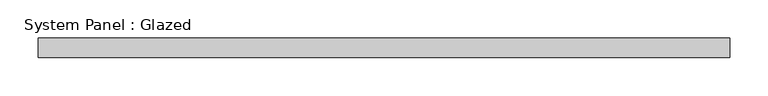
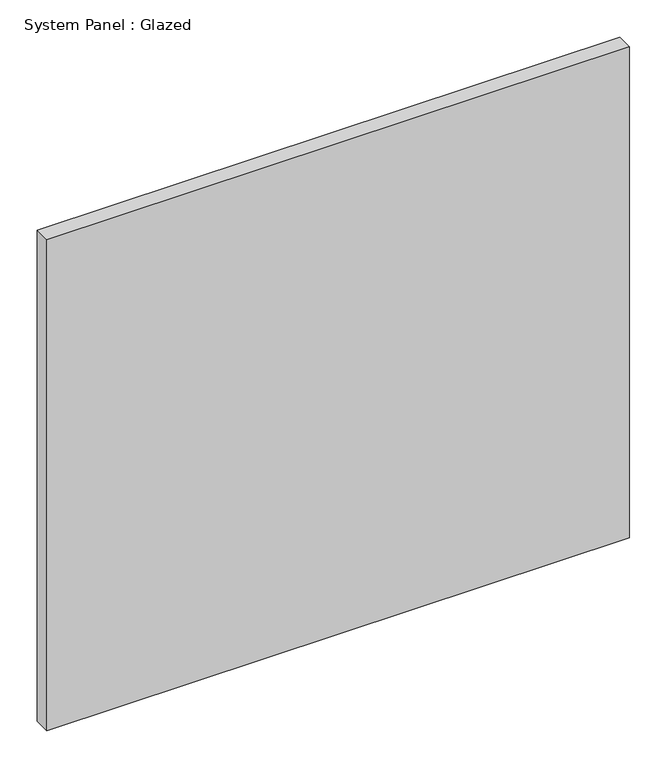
"""IFC4 building model written with IfcOpenShell, lengths in millimetres: plate geometry, System Panel : Glazed."""

from ifc_helpers import new_model, si_unit, origin, origin_with_axes, place, context, project, spatial, polyline, outline, extrude, source, transform, mapped, element, save


def system_panel_glazed_c1d42a29(model_context):
    return source(origin(), model_context, "Body", "SweptSolid", [
        extrude(outline(polyline([(450.85, -44.45), (-450.85, -44.45), (-450.85, -19.05), (450.85, -19.05), (450.85, -44.45)])), origin_with_axes(), (0.0, 0.0, 1.0), 802.4190025),
    ])


if __name__ == "__main__":
    model = new_model("IFC4")
    model_context = context("Model", 3, world=origin())
    ifc_project = project(units=[si_unit("LENGTHUNIT", "METRE", prefix="MILLI")], contexts=[model_context])
    site = spatial("IfcSite", under=ifc_project)
    building = spatial("IfcBuilding", under=site)
    placement = place(None, origin())
    system_panel_glazed_shape = system_panel_glazed_c1d42a29(model_context)
    element("IfcPlate", 1, ObjectType="System Panel : Glazed", at=placement, inside=building, context=model_context, shape_type="MappedRepresentation", body=[
        mapped(system_panel_glazed_shape, transform((0.0, 0.0, 0.0), x_axis=(1.0, 0.0, 0.0), y_axis=(0.0, 1.0, 0.0), z_axis=(0.0, 0.0, 1.0))),
    ])
    save(model, "model.ifc")
